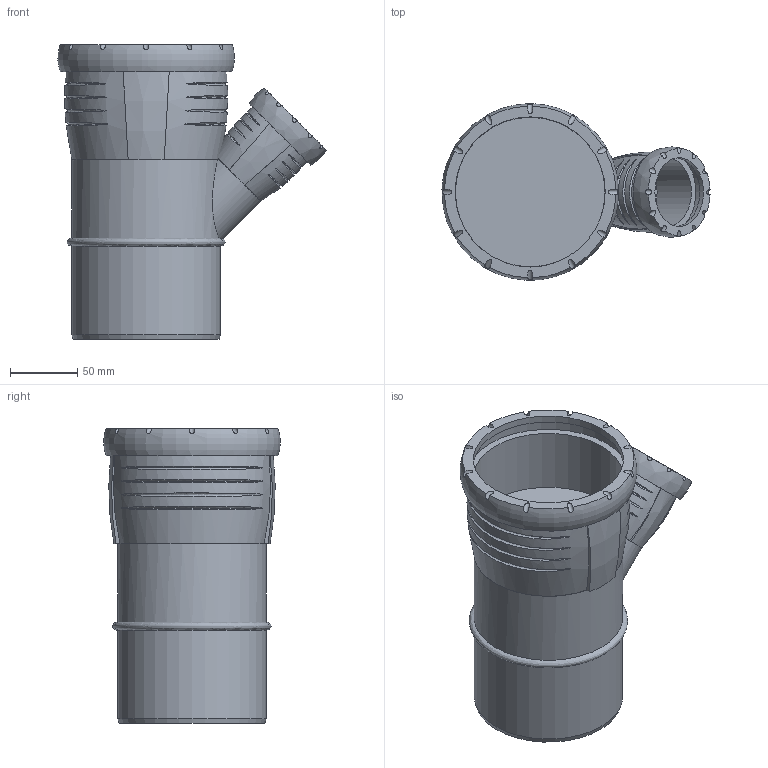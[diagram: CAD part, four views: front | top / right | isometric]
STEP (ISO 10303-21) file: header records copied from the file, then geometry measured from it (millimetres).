
FILE_DESCRIPTION(/* description */ (''),/* implementation_level */ '2;1');
FILE_NAME(/* name */ 'H:\Geberit-Teile\Export\Abzweig PP\stp\393532.stp',/* time_stamp */ '2017-02-13T13:18:18+01:00',/* author */ ('seihe2'),/* organization */ (''),/* preprocessor_version */ 'ST-DEVELOPER v15.2',/* originating_system */ 'Autodesk Inventor 2014',/* authorisation */ '');
FILE_SCHEMA (('AUTOMOTIVE_DESIGN { 1 0 10303 214 3 1 1 }'));
Length unit declared in the file: millimetre
Products named in the file (1): 393532
Bounding box: 198.8 x 130.89 x 218.6 mm (x, y, z)
Volume: 1233535.7 mm3; surface area: 214965.9 mm2
Topology: 5 solids, 5 shells, 104 faces, 242 edges, 172 vertices
Faces by surface type: bspline 46, cylinder 37, plane 19, cone 1, torus 1
Full cylindrical faces by diameter (mm): 36.243 x1, 50.15 x1, 50.7 x1, 51 x1, 60.1 x1, 90 x1, 101.2 x1, 110.2 x3, 111 x1, 111.3 x1, 121.5 x1
Entity records: 7562 total; most frequent: CARTESIAN_POINT 5431, ORIENTED_EDGE 444, DIRECTION 314, EDGE_CURVE 221, VERTEX_POINT 166, AXIS2_PLACEMENT_3D 157, EDGE_LOOP 147, B_SPLINE_CURVE_WITH_KNOTS 122
